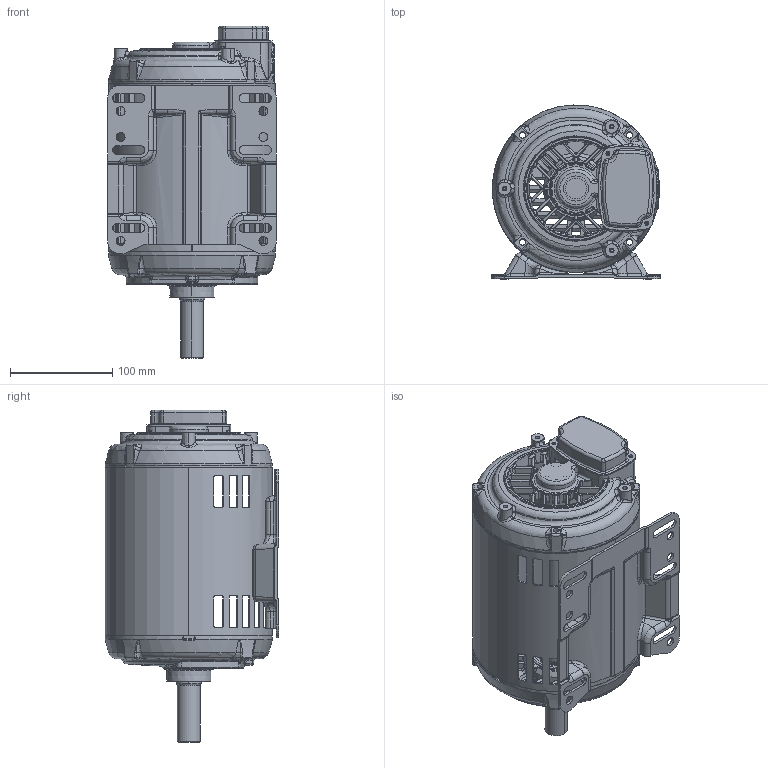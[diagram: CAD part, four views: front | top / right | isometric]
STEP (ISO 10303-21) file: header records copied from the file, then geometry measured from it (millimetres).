
FILE_DESCRIPTION((''),'2;1');
FILE_NAME('140_ASM','2015-06-04T',('NMC2342'),('Nidec Motor Corporation'),'PRO/ENGINEER BY PARAMETRIC TECHNOLOGY CORPORATION, 2013150','PRO/ENGINEER BY PARAMETRIC TECHNOLOGY CORPORATION, 2013150','');
FILE_SCHEMA(('CONFIG_CONTROL_DESIGN'));
Length unit declared in the file: inch
Products named in the file (8): 0486941AM02_AF0; 0152008; 0136086; 0774783; B352773860001_DP; 2037990; 2030599-001; 140_ASM
Assembly tree (7 placements, depth 2):
  140_ASM
    0486941AM02_AF0
    0152008
    0136086
    0774783
    B352773860001_DP
    2037990
    2030599-001
Bounding box: 165.1 x 169.98 x 324.7 mm (x, y, z)
Volume: 637292.1 mm3; surface area: 431347.9 mm2
Topology: 9 solids, 9 shells, 2358 faces, 5848 edges, 3492 vertices
Faces by surface type: bspline 971, plane 394, cylinder 360, torus 305, cone 247, sphere 81
Entity records: 108088 total; most frequent: CARTESIAN_POINT 58730, ORIENTED_EDGE 11694, DIRECTION 8570, EDGE_CURVE 5847, AXIS2_PLACEMENT_3D 3642, VERTEX_POINT 3492, EDGE_LOOP 2489, FACE_OUTER_BOUND 2358
